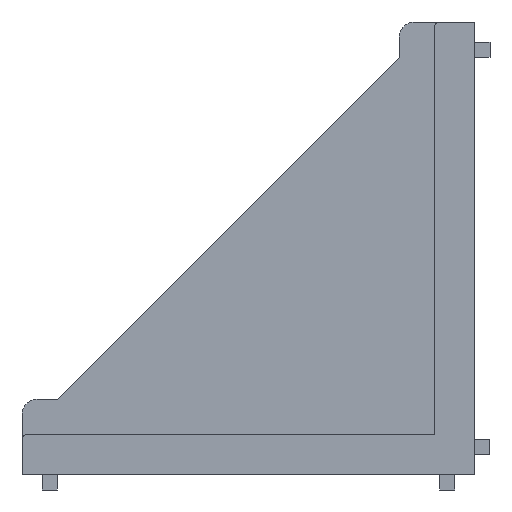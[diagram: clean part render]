
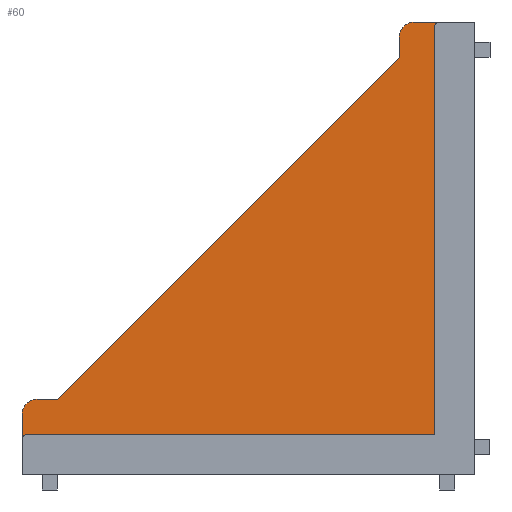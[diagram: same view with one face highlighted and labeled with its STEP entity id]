
A CAD part, left-side view. The second image highlights one B-rep face of the part: STEP entity #60.
In plain terms, the highlighted planar face has unit normal (-1, 0, 0).
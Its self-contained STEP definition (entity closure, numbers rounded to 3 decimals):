
#60 = ADVANCED_FACE ( 'NONE', ( #989 ), #688, .F. ) ;
#119 = CARTESIAN_POINT ( 'NONE',  ( 18., 0., 0. ) ) ;
#142 = AXIS2_PLACEMENT_3D ( 'NONE', #119, #1571, #3222 ) ;
#204 = EDGE_CURVE ( 'NONE', #2309, #2367, #3004, .T. ) ;
#242 = EDGE_CURVE ( 'NONE', #503, #701, #3464, .T. ) ;
#365 = DIRECTION ( 'NONE',  ( 0., 0., 1. ) ) ;
#399 = ORIENTED_EDGE ( 'NONE', *, *, #1264, .T. ) ;
#444 = DIRECTION ( 'NONE',  ( 0., 0., 1. ) ) ;
#500 = CARTESIAN_POINT ( 'NONE',  ( 18., 8., 8. ) ) ;
#503 = VERTEX_POINT ( 'NONE', #2408 ) ;
#557 = CIRCLE ( 'NONE', #3020, 3. ) ;
#635 = CARTESIAN_POINT ( 'NONE',  ( 18., 7., 89. ) ) ;
#639 = CARTESIAN_POINT ( 'NONE',  ( 18., 8., 90. ) ) ;
#688 = PLANE ( 'NONE',  #142 ) ;
#701 = VERTEX_POINT ( 'NONE', #1549 ) ;
#708 = CARTESIAN_POINT ( 'NONE',  ( 18., 8., 89. ) ) ;
#746 = CARTESIAN_POINT ( 'NONE',  ( 18., 90., 12. ) ) ;
#755 = DIRECTION ( 'NONE',  ( 0., -0.707, 0.707 ) ) ;
#796 = CARTESIAN_POINT ( 'NONE',  ( 18., 8., 8. ) ) ;
#817 = EDGE_CURVE ( 'NONE', #503, #3543, #557, .T. ) ;
#912 = DIRECTION ( 'NONE',  ( 0., 0., -1. ) ) ;
#919 = DIRECTION ( 'NONE',  ( 1., 0., 0. ) ) ;
#988 = ORIENTED_EDGE ( 'NONE', *, *, #2410, .T. ) ;
#989 = FACE_OUTER_BOUND ( 'NONE', #1758, .T. ) ;
#990 = ORIENTED_EDGE ( 'NONE', *, *, #2541, .T. ) ;
#999 = CARTESIAN_POINT ( 'NONE',  ( 18., 90., 8. ) ) ;
#1069 = CARTESIAN_POINT ( 'NONE',  ( 18., 15., 83. ) ) ;
#1111 = CARTESIAN_POINT ( 'NONE',  ( 18., 87., 12. ) ) ;
#1119 = VERTEX_POINT ( 'NONE', #746 ) ;
#1120 = LINE ( 'NONE', #999, #1830 ) ;
#1162 = EDGE_CURVE ( 'NONE', #3110, #3084, #2278, .T. ) ;
#1264 = EDGE_CURVE ( 'NONE', #2309, #1119, #1291, .T. ) ;
#1291 = CIRCLE ( 'NONE', #2221, 3. ) ;
#1344 = CARTESIAN_POINT ( 'NONE',  ( 18., 12., 87. ) ) ;
#1357 = DIRECTION ( 'NONE',  ( 0., -1., 0. ) ) ;
#1383 = DIRECTION ( 'NONE',  ( 0., 0., -1. ) ) ;
#1420 = CARTESIAN_POINT ( 'NONE',  ( 18., 90., 15. ) ) ;
#1476 = VECTOR ( 'NONE', #2779, 1000. ) ;
#1549 = CARTESIAN_POINT ( 'NONE',  ( 18., 7., 90. ) ) ;
#1570 = AXIS2_PLACEMENT_3D ( 'NONE', #2552, #919, #2824 ) ;
#1571 = DIRECTION ( 'NONE',  ( 1., 0., 0. ) ) ;
#1577 = VECTOR ( 'NONE', #3101, 1000. ) ;
#1593 = CARTESIAN_POINT ( 'NONE',  ( 18., 90., 7. ) ) ;
#1601 = DIRECTION ( 'NONE',  ( 0., 0., -1. ) ) ;
#1625 = VECTOR ( 'NONE', #2707, 1000. ) ;
#1626 = VERTEX_POINT ( 'NONE', #1593 ) ;
#1703 = LINE ( 'NONE', #2004, #2334 ) ;
#1716 = ORIENTED_EDGE ( 'NONE', *, *, #204, .F. ) ;
#1758 = EDGE_LOOP ( 'NONE', ( #1772, #3303, #2661, #2835, #1716, #399, #1767, #988, #2032, #2245, #990 ) ) ;
#1767 = ORIENTED_EDGE ( 'NONE', *, *, #2793, .F. ) ;
#1772 = ORIENTED_EDGE ( 'NONE', *, *, #242, .F. ) ;
#1775 = CARTESIAN_POINT ( 'NONE',  ( 18., 15., 87. ) ) ;
#1830 = VECTOR ( 'NONE', #444, 1000. ) ;
#2004 = CARTESIAN_POINT ( 'NONE',  ( 18., 15., 83. ) ) ;
#2032 = ORIENTED_EDGE ( 'NONE', *, *, #1162, .F. ) ;
#2173 = VECTOR ( 'NONE', #755, 1000. ) ;
#2193 = VECTOR ( 'NONE', #1357, 1000. ) ;
#2221 = AXIS2_PLACEMENT_3D ( 'NONE', #1111, #3011, #1383 ) ;
#2233 = CARTESIAN_POINT ( 'NONE',  ( 18., 87., 15. ) ) ;
#2245 = ORIENTED_EDGE ( 'NONE', *, *, #2424, .F. ) ;
#2278 = LINE ( 'NONE', #796, #1625 ) ;
#2309 = VERTEX_POINT ( 'NONE', #2233 ) ;
#2334 = VECTOR ( 'NONE', #365, 1000. ) ;
#2366 = AXIS2_PLACEMENT_3D ( 'NONE', #635, #2546, #912 ) ;
#2367 = VERTEX_POINT ( 'NONE', #2533 ) ;
#2388 = LINE ( 'NONE', #639, #1577 ) ;
#2408 = CARTESIAN_POINT ( 'NONE',  ( 18., 12., 90. ) ) ;
#2410 = EDGE_CURVE ( 'NONE', #1626, #3084, #3138, .T. ) ;
#2424 = EDGE_CURVE ( 'NONE', #2922, #3110, #2388, .T. ) ;
#2430 = CARTESIAN_POINT ( 'NONE',  ( 18., 15., 90. ) ) ;
#2533 = CARTESIAN_POINT ( 'NONE',  ( 18., 83., 15. ) ) ;
#2541 = EDGE_CURVE ( 'NONE', #2922, #701, #3345, .T. ) ;
#2546 = DIRECTION ( 'NONE',  ( 1., 0., 0. ) ) ;
#2552 = CARTESIAN_POINT ( 'NONE',  ( 18., 89., 7. ) ) ;
#2661 = ORIENTED_EDGE ( 'NONE', *, *, #3439, .F. ) ;
#2707 = DIRECTION ( 'NONE',  ( 0., 1., 0. ) ) ;
#2779 = DIRECTION ( 'NONE',  ( 0., -1., 0. ) ) ;
#2793 = EDGE_CURVE ( 'NONE', #1626, #1119, #1120, .T. ) ;
#2824 = DIRECTION ( 'NONE',  ( 0., 0., -1. ) ) ;
#2835 = ORIENTED_EDGE ( 'NONE', *, *, #3059, .F. ) ;
#2922 = VERTEX_POINT ( 'NONE', #708 ) ;
#2945 = CARTESIAN_POINT ( 'NONE',  ( 18., 83., 15. ) ) ;
#2981 = LINE ( 'NONE', #2945, #2173 ) ;
#3004 = LINE ( 'NONE', #1420, #1476 ) ;
#3011 = DIRECTION ( 'NONE',  ( -1., 0., 0. ) ) ;
#3020 = AXIS2_PLACEMENT_3D ( 'NONE', #1344, #3246, #1601 ) ;
#3059 = EDGE_CURVE ( 'NONE', #2367, #3297, #2981, .T. ) ;
#3084 = VERTEX_POINT ( 'NONE', #3497 ) ;
#3101 = DIRECTION ( 'NONE',  ( 0., 0., -1. ) ) ;
#3110 = VERTEX_POINT ( 'NONE', #500 ) ;
#3138 = CIRCLE ( 'NONE', #1570, 1. ) ;
#3222 = DIRECTION ( 'NONE',  ( 0., 0., -1. ) ) ;
#3246 = DIRECTION ( 'NONE',  ( -1., 0., 0. ) ) ;
#3297 = VERTEX_POINT ( 'NONE', #1069 ) ;
#3303 = ORIENTED_EDGE ( 'NONE', *, *, #817, .T. ) ;
#3345 = CIRCLE ( 'NONE', #2366, 1. ) ;
#3439 = EDGE_CURVE ( 'NONE', #3297, #3543, #1703, .T. ) ;
#3464 = LINE ( 'NONE', #2430, #2193 ) ;
#3497 = CARTESIAN_POINT ( 'NONE',  ( 18., 89., 8. ) ) ;
#3543 = VERTEX_POINT ( 'NONE', #1775 ) ;
